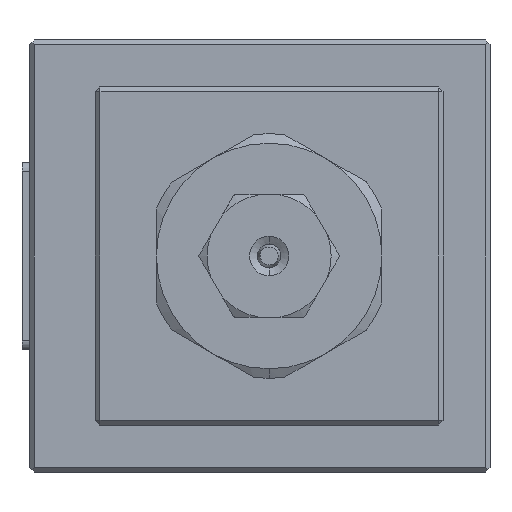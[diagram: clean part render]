
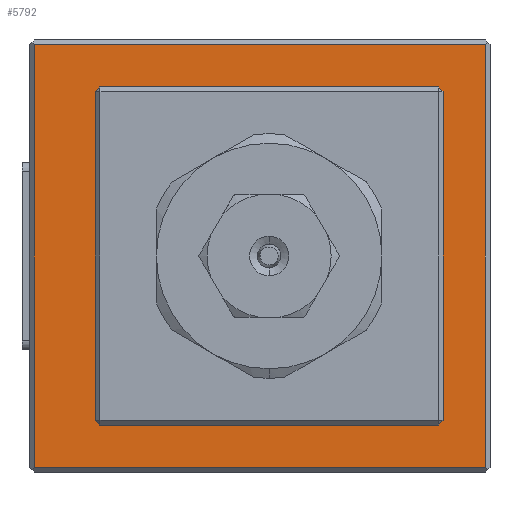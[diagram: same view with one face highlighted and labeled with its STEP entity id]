
A CAD part, left-side view. The second image highlights one B-rep face of the part: STEP entity #5792.
In plain terms, the highlighted planar face has unit normal (-1, 0, 0).
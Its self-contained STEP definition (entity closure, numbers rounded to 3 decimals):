
#11 = FACE_OUTER_BOUND ( 'NONE', #14269, .T. ) ;
#1036 = CARTESIAN_POINT ( 'NONE',  ( -34., -23.5, -23. ) ) ;
#1680 = CARTESIAN_POINT ( 'NONE',  ( -34., 25., -23. ) ) ;
#1704 = LINE ( 'NONE', #20779, #20717 ) ;
#2024 = DIRECTION ( 'NONE',  ( 0., 0., -1. ) ) ;
#2501 = LINE ( 'NONE', #21476, #9148 ) ;
#2745 = CARTESIAN_POINT ( 'NONE',  ( -34., -0.5, 0. ) ) ;
#2829 = CIRCLE ( 'NONE', #12490, 12.5 ) ;
#3036 = AXIS2_PLACEMENT_3D ( 'NONE', #1680, #15325, #3278 ) ;
#3278 = DIRECTION ( 'NONE',  ( 0., -1., 0. ) ) ;
#3601 = CARTESIAN_POINT ( 'NONE',  ( -34., 24.5, -23. ) ) ;
#4552 = CARTESIAN_POINT ( 'NONE',  ( -34., -23.5, 22.5 ) ) ;
#4817 = VECTOR ( 'NONE', #2024, 1000. ) ;
#5379 = DIRECTION ( 'NONE',  ( 0., -1., 0. ) ) ;
#5718 = ORIENTED_EDGE ( 'NONE', *, *, #21585, .T. ) ;
#5792 = ADVANCED_FACE ( 'NONE', ( #11, #6803 ), #8616, .T. ) ;
#6474 = CARTESIAN_POINT ( 'NONE',  ( -34., -23.5, -22.5 ) ) ;
#6628 = CARTESIAN_POINT ( 'NONE',  ( -34., -0.5, 12.5 ) ) ;
#6803 = FACE_BOUND ( 'NONE', #17636, .T. ) ;
#7117 = ORIENTED_EDGE ( 'NONE', *, *, #10613, .T. ) ;
#7801 = ORIENTED_EDGE ( 'NONE', *, *, #15738, .T. ) ;
#8193 = AXIS2_PLACEMENT_3D ( 'NONE', #20830, #9143, #17314 ) ;
#8616 = PLANE ( 'NONE',  #3036 ) ;
#9143 = DIRECTION ( 'NONE',  ( 1., 0., 0. ) ) ;
#9148 = VECTOR ( 'NONE', #16039, 1000. ) ;
#9977 = CIRCLE ( 'NONE', #8193, 12.5 ) ;
#10613 = EDGE_CURVE ( 'NONE', #15236, #20764, #16395, .T. ) ;
#11032 = CARTESIAN_POINT ( 'NONE',  ( -34., -0.5, -12.5 ) ) ;
#11295 = EDGE_CURVE ( 'NONE', #13051, #14671, #2829, .T. ) ;
#11746 = EDGE_CURVE ( 'NONE', #22167, #17454, #14217, .T. ) ;
#12490 = AXIS2_PLACEMENT_3D ( 'NONE', #2745, #13802, #13679 ) ;
#12572 = ORIENTED_EDGE ( 'NONE', *, *, #11295, .T. ) ;
#12917 = CARTESIAN_POINT ( 'NONE',  ( -34., 24.5, -22.5 ) ) ;
#13051 = VERTEX_POINT ( 'NONE', #6628 ) ;
#13114 = ORIENTED_EDGE ( 'NONE', *, *, #21879, .T. ) ;
#13679 = DIRECTION ( 'NONE',  ( 0., 0., -1. ) ) ;
#13802 = DIRECTION ( 'NONE',  ( 1., 0., 0. ) ) ;
#14217 = LINE ( 'NONE', #3601, #4817 ) ;
#14269 = EDGE_LOOP ( 'NONE', ( #5718, #7117, #7801, #19351 ) ) ;
#14671 = VERTEX_POINT ( 'NONE', #11032 ) ;
#15236 = VERTEX_POINT ( 'NONE', #6474 ) ;
#15325 = DIRECTION ( 'NONE',  ( -1., 0., 0. ) ) ;
#15738 = EDGE_CURVE ( 'NONE', #20764, #22167, #2501, .T. ) ;
#16039 = DIRECTION ( 'NONE',  ( 0., 1., 0. ) ) ;
#16395 = LINE ( 'NONE', #1036, #19245 ) ;
#16492 = DIRECTION ( 'NONE',  ( 0., 0., 1. ) ) ;
#17314 = DIRECTION ( 'NONE',  ( 0., 0., -1. ) ) ;
#17454 = VERTEX_POINT ( 'NONE', #12917 ) ;
#17636 = EDGE_LOOP ( 'NONE', ( #13114, #12572 ) ) ;
#19245 = VECTOR ( 'NONE', #16492, 1000. ) ;
#19351 = ORIENTED_EDGE ( 'NONE', *, *, #11746, .T. ) ;
#20717 = VECTOR ( 'NONE', #5379, 1000. ) ;
#20764 = VERTEX_POINT ( 'NONE', #4552 ) ;
#20779 = CARTESIAN_POINT ( 'NONE',  ( -34., 25., -22.5 ) ) ;
#20830 = CARTESIAN_POINT ( 'NONE',  ( -34., -0.5, 0. ) ) ;
#20896 = CARTESIAN_POINT ( 'NONE',  ( -34., 24.5, 22.5 ) ) ;
#21476 = CARTESIAN_POINT ( 'NONE',  ( -34., 25., 22.5 ) ) ;
#21585 = EDGE_CURVE ( 'NONE', #17454, #15236, #1704, .T. ) ;
#21879 = EDGE_CURVE ( 'NONE', #14671, #13051, #9977, .T. ) ;
#22167 = VERTEX_POINT ( 'NONE', #20896 ) ;
